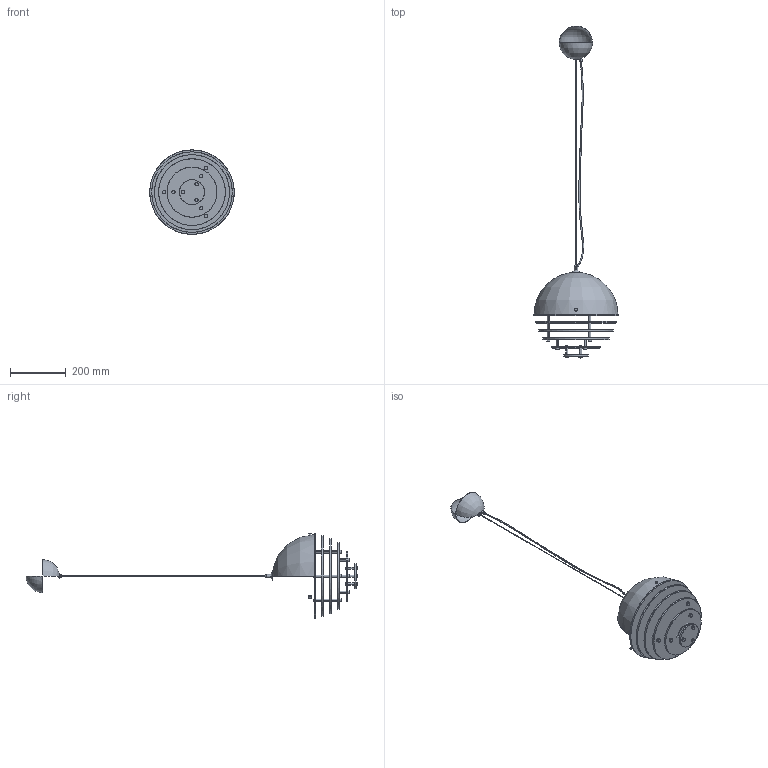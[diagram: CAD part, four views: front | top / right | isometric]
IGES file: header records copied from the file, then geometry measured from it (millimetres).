
Start section: SolidWorks IGES file using analytic representation for surfaces
Global section: file name: F:\燠隴矨\3D\2025-11\Sunset Pendant Light.IGS,15; native system: HSolidWorks 2022; preprocessor: SolidWorks 2022; author: MyPC; date: 251108.081454; units: millimetre
Bounding box: 304 x 1195.44 x 305 mm (x, y, z)
Surface area: 815097.2 mm2 (no closed solid volume)
Topology: 0 solids, 0 shells, 160 faces, 3668 edges, 3654 vertices
Faces by surface type: revolution 90, bspline 70
